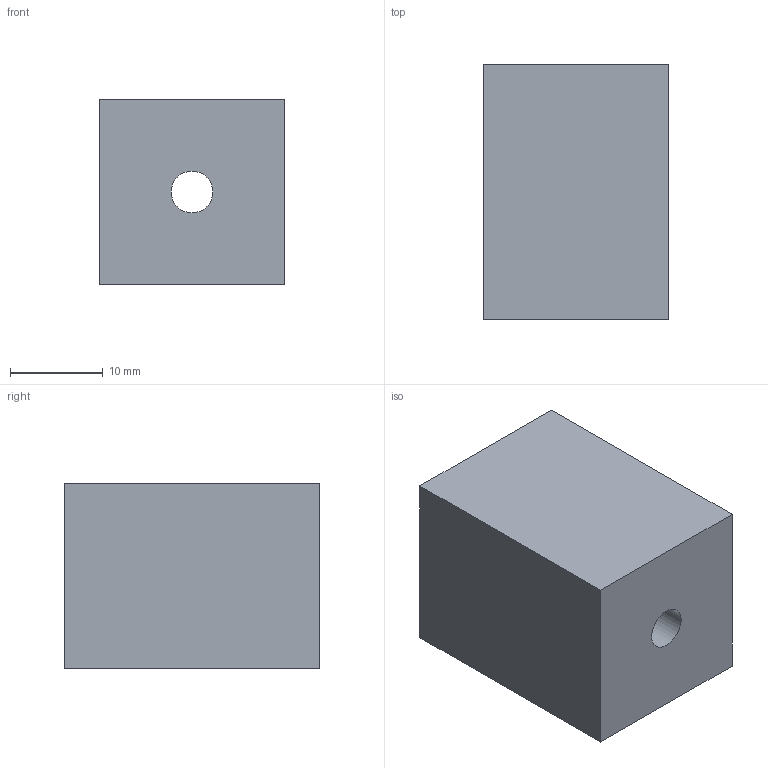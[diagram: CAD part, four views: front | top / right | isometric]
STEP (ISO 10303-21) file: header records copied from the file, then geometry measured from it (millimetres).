
FILE_DESCRIPTION(('Open CASCADE Model'),'2;1');
FILE_NAME('Open CASCADE Shape Model','2026-11-14T16:01:38',('Author'),( 'Open CASCADE'),'Open CASCADE STEP processor 7.9','Open CASCADE 7.9' ,'Unknown');
FILE_SCHEMA(('AUTOMOTIVE_DESIGN { 1 0 10303 214 1 1 1 1 }'));
Length unit declared in the file: millimetre
Products named in the file (1): Open CASCADE STEP translator 7.9 96
Bounding box: 20 x 27.5 x 20 mm (x, y, z)
Volume: 10562.6 mm3; surface area: 3357 mm2
Topology: 1 solids, 1 shells, 7 faces, 15 edges, 10 vertices
Faces by surface type: plane 6, cylinder 1
Full cylindrical faces by diameter (mm): 4.5 x1
Entity records: 400 total; most frequent: CARTESIAN_POINT 63, DIRECTION 63, LINE 41, VECTOR 41, ORIENTED_EDGE 30, PCURVE 30, DEFINITIONAL_REPRESENTATION 30, EDGE_CURVE 15
